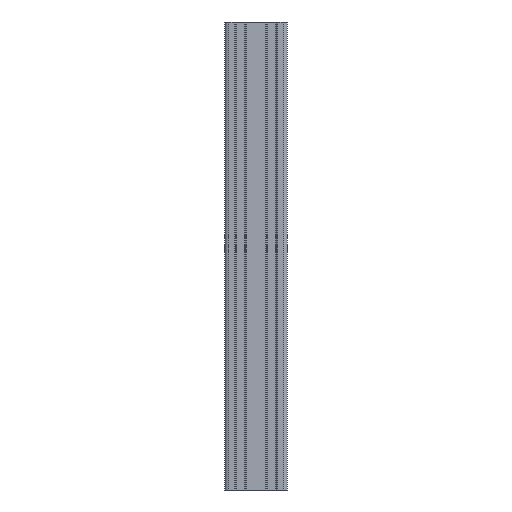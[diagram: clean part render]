
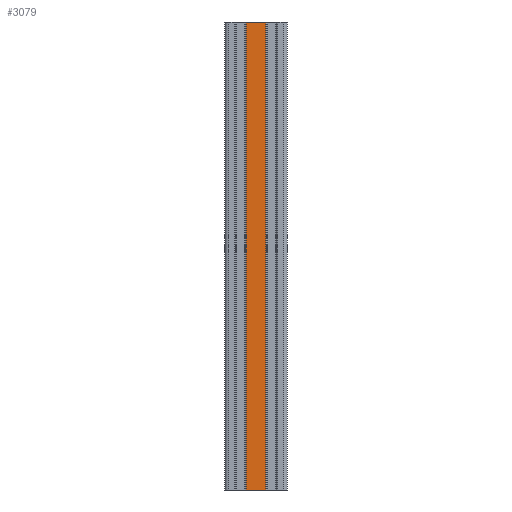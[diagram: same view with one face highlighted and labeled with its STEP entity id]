
A CAD part, front view. The second image highlights one B-rep face of the part: STEP entity #3079.
In plain terms, the highlighted planar face has unit normal (0, -1, 0).
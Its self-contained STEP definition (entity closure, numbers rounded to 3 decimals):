
#278 = CARTESIAN_POINT ( 'NONE',  ( 6.15, -10., 300. ) ) ;
#403 = ORIENTED_EDGE ( 'NONE', *, *, #3831, .T. ) ;
#526 = VECTOR ( 'NONE', #5090, 1000. ) ;
#617 = DIRECTION ( 'NONE',  ( 0., 0., -1. ) ) ;
#960 = DIRECTION ( 'NONE',  ( 1., 0., 0. ) ) ;
#1049 = DIRECTION ( 'NONE',  ( 0., 0., 1. ) ) ;
#1123 = CARTESIAN_POINT ( 'NONE',  ( -6.15, -10., 300. ) ) ;
#1134 = CARTESIAN_POINT ( 'NONE',  ( -6.15, -10., 300. ) ) ;
#1138 = VERTEX_POINT ( 'NONE', #1405 ) ;
#1141 = VERTEX_POINT ( 'NONE', #5186 ) ;
#1315 = LINE ( 'NONE', #278, #526 ) ;
#1405 = CARTESIAN_POINT ( 'NONE',  ( 6.15, -10., 0. ) ) ;
#1497 = CARTESIAN_POINT ( 'NONE',  ( -6.15, -10., 300. ) ) ;
#1515 = DIRECTION ( 'NONE',  ( 1., 0., 0. ) ) ;
#1572 = DIRECTION ( 'NONE',  ( 0., 1., 0. ) ) ;
#1696 = ORIENTED_EDGE ( 'NONE', *, *, #3126, .F. ) ;
#1854 = EDGE_LOOP ( 'NONE', ( #4495, #1696, #2390, #403 ) ) ;
#2033 = LINE ( 'NONE', #1497, #3208 ) ;
#2055 = CARTESIAN_POINT ( 'NONE',  ( 0., -10., 0. ) ) ;
#2070 = EDGE_CURVE ( 'NONE', #5278, #5054, #2033, .T. ) ;
#2119 = CARTESIAN_POINT ( 'NONE',  ( 0., -10., 300. ) ) ;
#2222 = LINE ( 'NONE', #1134, #3616 ) ;
#2241 = EDGE_CURVE ( 'NONE', #1141, #1138, #2626, .T. ) ;
#2390 = ORIENTED_EDGE ( 'NONE', *, *, #2070, .F. ) ;
#2626 = LINE ( 'NONE', #2055, #4037 ) ;
#2694 = PLANE ( 'NONE',  #3231 ) ;
#3079 = ADVANCED_FACE ( 'NONE', ( #3656 ), #2694, .F. ) ;
#3126 = EDGE_CURVE ( 'NONE', #5054, #1138, #1315, .T. ) ;
#3208 = VECTOR ( 'NONE', #960, 1000. ) ;
#3231 = AXIS2_PLACEMENT_3D ( 'NONE', #2119, #1572, #1049 ) ;
#3539 = CARTESIAN_POINT ( 'NONE',  ( 6.15, -10., 300. ) ) ;
#3616 = VECTOR ( 'NONE', #617, 1000. ) ;
#3656 = FACE_OUTER_BOUND ( 'NONE', #1854, .T. ) ;
#3831 = EDGE_CURVE ( 'NONE', #5278, #1141, #2222, .T. ) ;
#4037 = VECTOR ( 'NONE', #1515, 1000. ) ;
#4495 = ORIENTED_EDGE ( 'NONE', *, *, #2241, .T. ) ;
#5054 = VERTEX_POINT ( 'NONE', #3539 ) ;
#5090 = DIRECTION ( 'NONE',  ( 0., 0., -1. ) ) ;
#5186 = CARTESIAN_POINT ( 'NONE',  ( -6.15, -10., 0. ) ) ;
#5278 = VERTEX_POINT ( 'NONE', #1123 ) ;
